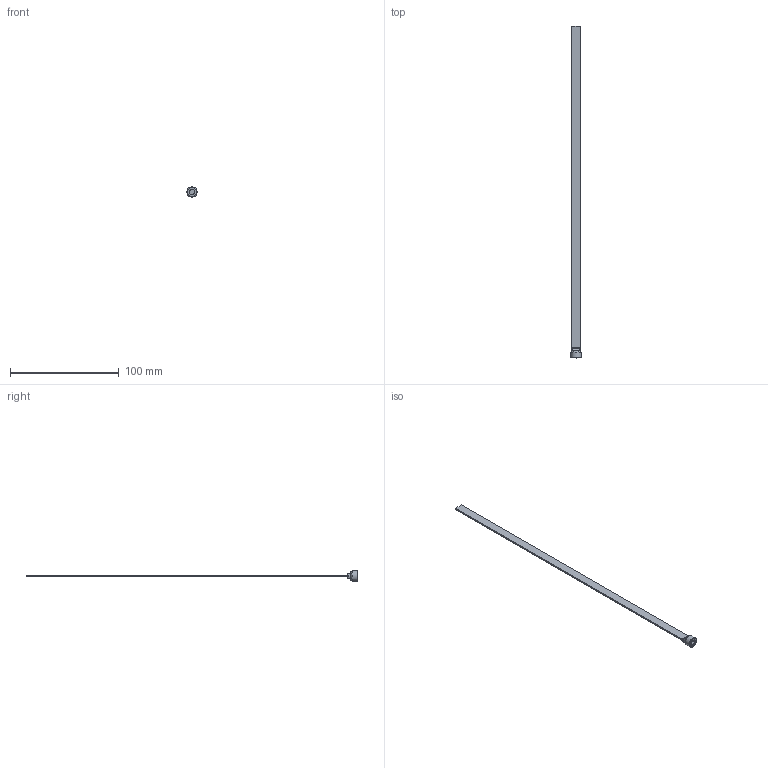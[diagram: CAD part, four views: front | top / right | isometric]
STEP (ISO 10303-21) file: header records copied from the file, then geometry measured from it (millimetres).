
FILE_DESCRIPTION(/* description */ (''),/* implementation_level */ '2;1');
FILE_NAME(/* name */ 'C:/Users/drich/Desktop/SB18X12 v1.step',/* time_stamp */ '2019-12-29T15:53:35-06:00',/* author */ (''),/* organization */ (''),/* preprocessor_version */ 'ST-DEVELOPER v18',/* originating_system */ 'Autodesk Translation Framework v8.12.0.6',/* authorisation */ '');
FILE_SCHEMA (('AUTOMOTIVE_DESIGN { 1 0 10303 214 3 1 1 }'));
Length unit declared in the file: inch
Products named in the file (1): SB18X12
Bounding box: 9.62 x 304.8 x 9.62 mm (x, y, z)
Volume: 3802.6 mm3; surface area: 5884.7 mm2
Topology: 1 solids, 1 shells, 35 faces, 100 edges, 68 vertices
Faces by surface type: plane 19, cylinder 8, torus 5, cone 3
Full cylindrical faces by diameter (mm): 7.772 x1, 9.621 x1
Entity records: 1287 total; most frequent: CARTESIAN_POINT 364, ORIENTED_EDGE 200, DIRECTION 171, EDGE_CURVE 100, VERTEX_POINT 68, AXIS2_PLACEMENT_3D 63, LINE 45, VECTOR 45
